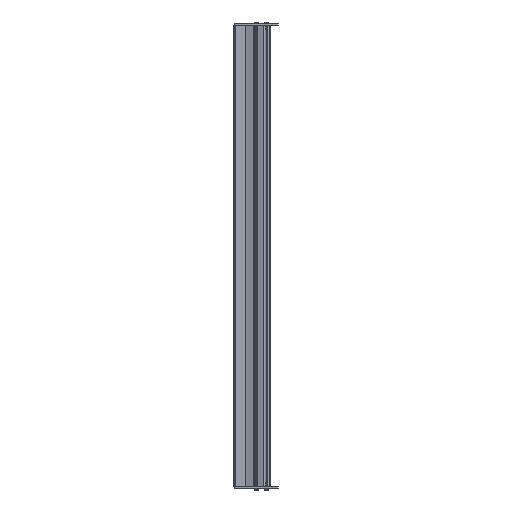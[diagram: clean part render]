
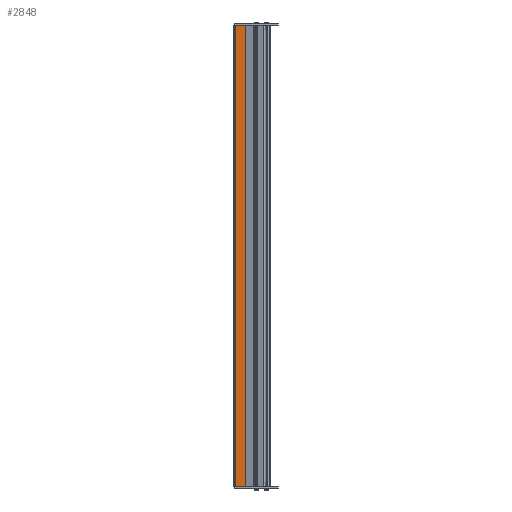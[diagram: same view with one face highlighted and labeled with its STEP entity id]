
A CAD part, left-side view. The second image highlights one B-rep face of the part: STEP entity #2848.
In plain terms, the highlighted planar face has unit normal (-1, 0, 0) as drawn and (1, 0, 0) by its records, which use the part's own axes.
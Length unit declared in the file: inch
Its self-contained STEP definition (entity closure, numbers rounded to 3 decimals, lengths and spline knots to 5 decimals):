
#1499=DIRECTION('',(0.,0.,1.));
#1500=VECTOR('',#1499,38.236);
#1501=CARTESIAN_POINT('',(0.048,0.01693,-19.118));
#1502=LINE('',#1501,#1500);
#1853=DIRECTION('',(0.,-1.,0.));
#1854=VECTOR('',#1853,0.88707);
#1855=CARTESIAN_POINT('',(0.048,0.904,-19.118));
#1856=LINE('',#1855,#1854);
#1857=DIRECTION('',(0.,-1.,0.));
#1858=VECTOR('',#1857,0.88707);
#1859=CARTESIAN_POINT('',(0.048,0.904,19.118));
#1860=LINE('',#1859,#1858);
#1969=DIRECTION('',(0.,0.,-1.));
#1970=VECTOR('',#1969,38.236);
#1971=CARTESIAN_POINT('',(0.048,0.904,19.118));
#1972=LINE('',#1971,#1970);
#2275=CARTESIAN_POINT('',(0.048,0.904,19.118));
#2277=VERTEX_POINT('',#2275);
#2301=CARTESIAN_POINT('',(0.048,0.01693,-19.118));
#2302=CARTESIAN_POINT('',(0.048,0.01693,19.118));
#2303=VERTEX_POINT('',#2301);
#2304=VERTEX_POINT('',#2302);
#2349=CARTESIAN_POINT('',(0.048,0.904,-19.118));
#2351=VERTEX_POINT('',#2349);
#2835=CARTESIAN_POINT('',(0.048,0.,19.118));
#2836=DIRECTION('',(-1.,0.,0.));
#2837=DIRECTION('',(0.,0.,1.));
#2838=AXIS2_PLACEMENT_3D('',#2835,#2836,#2837);
#2839=PLANE('',#2838);
#2840=ORIENTED_EDGE('',*,*,#2828,.T.);
#2841=ORIENTED_EDGE('',*,*,#2510,.T.);
#2843=ORIENTED_EDGE('',*,*,#2842,.F.);
#2845=ORIENTED_EDGE('',*,*,#2844,.T.);
#2846=EDGE_LOOP('',(#2840,#2841,#2843,#2845));
#2847=FACE_OUTER_BOUND('',#2846,.F.);
#2510=EDGE_CURVE('',#2303,#2304,#1502,.T.);
#2828=EDGE_CURVE('',#2351,#2303,#1856,.T.);
#2842=EDGE_CURVE('',#2277,#2304,#1860,.T.);
#2844=EDGE_CURVE('',#2277,#2351,#1972,.T.);
#2848=ADVANCED_FACE('',(#2847),#2839,.F.);
